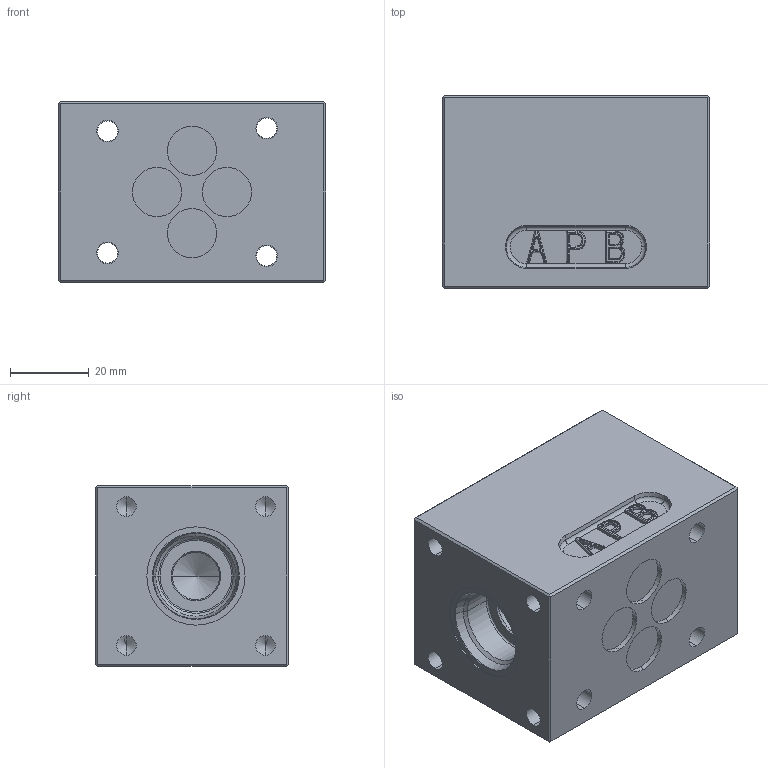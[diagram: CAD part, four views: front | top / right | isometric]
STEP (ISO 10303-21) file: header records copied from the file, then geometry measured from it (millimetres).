
FILE_DESCRIPTION (( 'STEP AP203' ), '1' );
FILE_NAME ('WD.FA06.step', '2013-07-29T06:49:18', ( 'Wandfluh AG' ), ( 'Wandfluh AG' ), 'SwSTEP 2.0', 'SolidWorks 2012', '' );
FILE_SCHEMA (( 'CONFIG_CONTROL_DESIGN' ));
Length unit declared in the file: millimetre
Products named in the file (1): WD.FA06
Bounding box: 68 x 49 x 46 mm (x, y, z)
Volume: 136955.1 mm3; surface area: 27582.1 mm2
Topology: 5 solids, 5 shells, 1136 faces, 3150 edges, 2025 vertices
Faces by surface type: plane 670, cylinder 346, cone 38, bspline 36, torus 28, sphere 18
Entity records: 37949 total; most frequent: CARTESIAN_POINT 8238, DIRECTION 6370, ORIENTED_EDGE 6226, EDGE_CURVE 3113, AXIS2_PLACEMENT_3D 2228, VERTEX_POINT 2025, LINE 1914, VECTOR 1914
